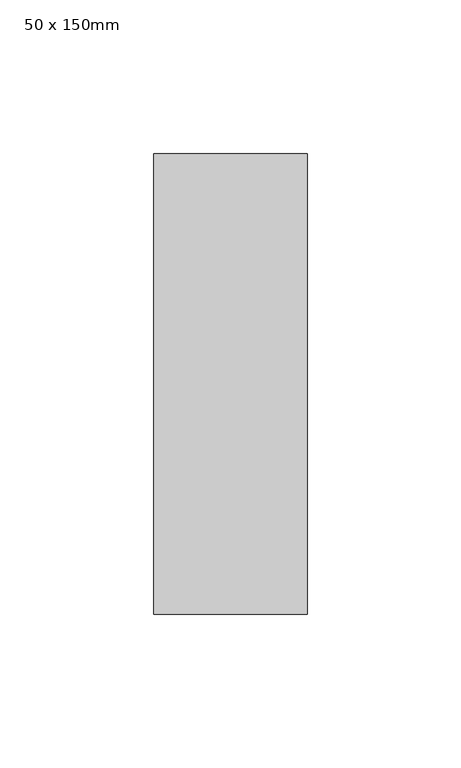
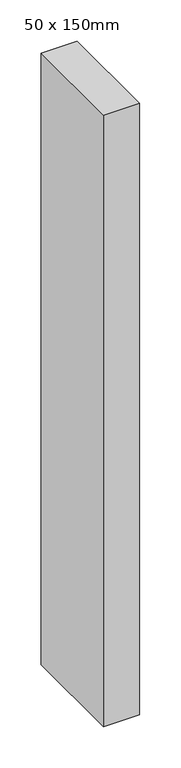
"""IFC4 building model written with IfcOpenShell, lengths in millimetres: member geometry, Prostokątny szpros : 50 x 150mm."""

from ifc_helpers import new_model, si_unit, frame, origin, place, context, project, spatial, polyline, outline, extrude, source, transform, mapped, element, save


def member_50_x_150mm_35d6a770(model_context):
    return source(origin(), model_context, "Body", "SweptSolid", [
        extrude(outline(polyline([(0.0, 75.0), (0.0, -75.0), (-50.0, -75.0), (-50.0, 75.0), (0.0, 75.0)])), frame((0.0, 0.0, -900.0), z_axis=(0.0, 0.0, 1.0), x_axis=(1.0, 0.0, 0.0)), (0.0, 0.0, 1.0), 900.0),
    ])


if __name__ == "__main__":
    model = new_model("IFC4")
    model_context = context("Model", 3, world=origin())
    ifc_project = project(units=[si_unit("LENGTHUNIT", "METRE", prefix="MILLI")], contexts=[model_context])
    site = spatial("IfcSite", under=ifc_project)
    building = spatial("IfcBuilding", under=site)
    placement = place(None, origin())
    member_50_x_150mm_shape = member_50_x_150mm_35d6a770(model_context)
    element("IfcMember", 1, ObjectType="Prostokątny szpros : 50 x 150mm", at=placement, inside=building, context=model_context, shape_type="MappedRepresentation", body=[
        mapped(member_50_x_150mm_shape, transform((0.0, 0.0, 0.0), x_axis=(1.0, 0.0, 0.0), y_axis=(0.0, 1.0, 0.0), z_axis=(0.0, 0.0, 1.0))),
    ])
    save(model, "model.ifc")
